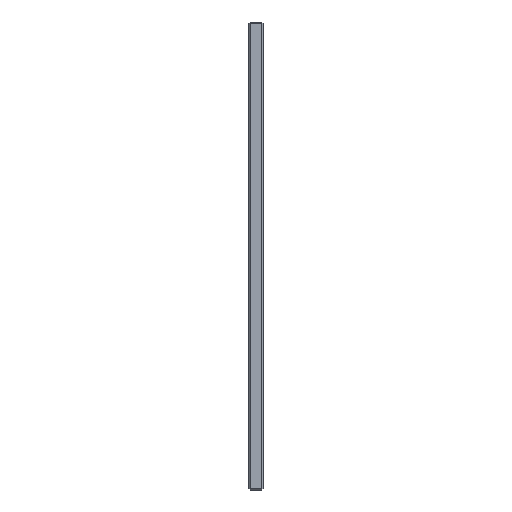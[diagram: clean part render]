
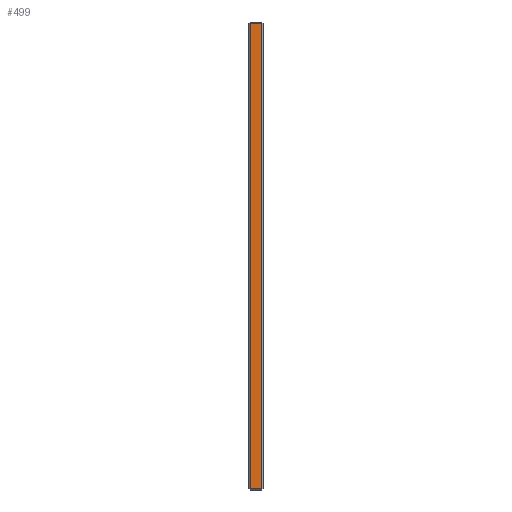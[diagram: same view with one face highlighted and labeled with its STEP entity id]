
A CAD part, left-side view. The second image highlights one B-rep face of the part: STEP entity #499.
In plain terms, the highlighted planar face has unit normal (-1, 0, 0).
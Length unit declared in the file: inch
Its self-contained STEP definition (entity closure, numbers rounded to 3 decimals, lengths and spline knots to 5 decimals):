
#49 = LINE ( 'NONE', #2061, #1959 ) ;
#53 = ORIENTED_EDGE ( 'NONE', *, *, #422, .T. ) ;
#327 = CARTESIAN_POINT ( 'NONE',  ( -17.6875, 0.45, -7.875 ) ) ;
#336 = CARTESIAN_POINT ( 'NONE',  ( -17.6875, 0.5, 7.825 ) ) ;
#381 = VERTEX_POINT ( 'NONE', #2015 ) ;
#386 = EDGE_CURVE ( 'NONE', #1610, #1341, #796, .T. ) ;
#422 = EDGE_CURVE ( 'NONE', #1341, #381, #49, .T. ) ;
#499 = ADVANCED_FACE ( 'Placement Plane', ( #1719 ), #1370, .F. ) ;
#583 = LINE ( 'NONE', #327, #2255 ) ;
#589 = LINE ( 'NONE', #336, #2214 ) ;
#748 = VECTOR ( 'NONE', #1163, 39.37008 ) ;
#796 = LINE ( 'NONE', #1353, #748 ) ;
#825 = DIRECTION ( 'NONE',  ( 1., 0., 0. ) ) ;
#851 = DIRECTION ( 'NONE',  ( 0., 0., -1. ) ) ;
#985 = DIRECTION ( 'NONE',  ( 0., 0., 1. ) ) ;
#989 = CARTESIAN_POINT ( 'NONE',  ( -17.6875, 0.45, -7.825 ) ) ;
#1163 = DIRECTION ( 'NONE',  ( 0., -1., 0. ) ) ;
#1193 = ORIENTED_EDGE ( 'NONE', *, *, #1321, .T. ) ;
#1321 = EDGE_CURVE ( 'NONE', #381, #2300, #589, .T. ) ;
#1341 = VERTEX_POINT ( 'NONE', #1971 ) ;
#1353 = CARTESIAN_POINT ( 'NONE',  ( -17.6875, 0.5, -7.825 ) ) ;
#1370 = PLANE ( 'NONE',  #2275 ) ;
#1406 = EDGE_LOOP ( 'NONE', ( #1592, #1599, #53, #1193 ) ) ;
#1444 = CARTESIAN_POINT ( 'NONE',  ( -17.6875, 0.45, 7.825 ) ) ;
#1592 = ORIENTED_EDGE ( 'NONE', *, *, #1906, .T. ) ;
#1599 = ORIENTED_EDGE ( 'NONE', *, *, #386, .T. ) ;
#1610 = VERTEX_POINT ( 'NONE', #989 ) ;
#1631 = DIRECTION ( 'NONE',  ( 0., 0., -1. ) ) ;
#1719 = FACE_OUTER_BOUND ( 'NONE', #1406, .T. ) ;
#1789 = DIRECTION ( 'NONE',  ( 0., 1., 0. ) ) ;
#1906 = EDGE_CURVE ( 'NONE', #2300, #1610, #583, .T. ) ;
#1909 = CARTESIAN_POINT ( 'NONE',  ( -17.6875, 0.5, -7.875 ) ) ;
#1959 = VECTOR ( 'NONE', #985, 39.37008 ) ;
#1971 = CARTESIAN_POINT ( 'NONE',  ( -17.6875, 0.05, -7.825 ) ) ;
#2015 = CARTESIAN_POINT ( 'NONE',  ( -17.6875, 0.05, 7.825 ) ) ;
#2061 = CARTESIAN_POINT ( 'NONE',  ( -17.6875, 0.05, -7.875 ) ) ;
#2214 = VECTOR ( 'NONE', #1789, 39.37008 ) ;
#2255 = VECTOR ( 'NONE', #1631, 39.37008 ) ;
#2275 = AXIS2_PLACEMENT_3D ( 'NONE', #1909, #825, #851 ) ;
#2300 = VERTEX_POINT ( 'NONE', #1444 ) ;
